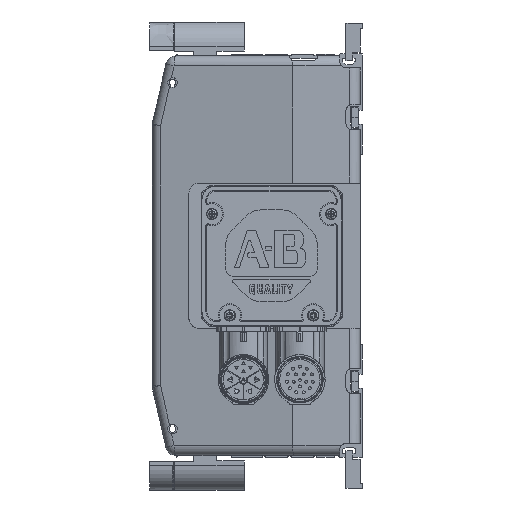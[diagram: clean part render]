
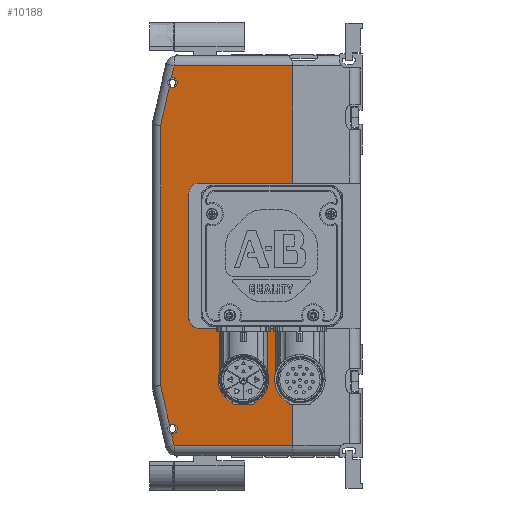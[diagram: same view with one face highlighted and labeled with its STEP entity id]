
A CAD part, left-side view. The second image highlights one B-rep face of the part: STEP entity #10188.
In plain terms, the highlighted planar face has unit normal (-0.985, 0.172, 0).
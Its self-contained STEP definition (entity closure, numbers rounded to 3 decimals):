
#8676=DIRECTION('',(0.,0.,1.));
#8677=VECTOR('',#8676,58.071);
#8678=CARTESIAN_POINT('',(0.,33.317,36.002));
#8679=LINE('',#8678,#8677);
#8754=DIRECTION('',(0.,0.,1.));
#8755=VECTOR('',#8754,58.075);
#8756=CARTESIAN_POINT('',(0.,33.317,-94.073));
#8757=LINE('',#8756,#8755);
#8901=DIRECTION('',(0.172,0.985,0.));
#8902=VECTOR('',#8901,47.214);
#8903=CARTESIAN_POINT('',(0.,33.317,36.002));
#8904=LINE('',#8903,#8902);
#8905=CARTESIAN_POINT('',(8.142,79.823,36.002));
#8906=CARTESIAN_POINT('',(8.287,80.65,36.002));
#8907=CARTESIAN_POINT('',(8.514,81.952,35.644));
#8908=CARTESIAN_POINT('',(8.772,83.424,34.62));
#8909=CARTESIAN_POINT('',(8.953,84.457,33.15));
#8910=CARTESIAN_POINT('',(9.017,84.823,31.842));
#8911=CARTESIAN_POINT('',(9.017,84.823,31.002));
#8913=DIRECTION('',(0.,0.,-1.));
#8914=VECTOR('',#8913,62.);
#8915=CARTESIAN_POINT('',(9.017,84.823,31.002));
#8916=LINE('',#8915,#8914);
#8917=CARTESIAN_POINT('',(9.017,84.823,-30.998));
#8918=CARTESIAN_POINT('',(9.017,84.823,-31.838));
#8919=CARTESIAN_POINT('',(8.953,84.457,-33.146));
#8920=CARTESIAN_POINT('',(8.772,83.424,-34.616));
#8921=CARTESIAN_POINT('',(8.514,81.952,-35.64));
#8922=CARTESIAN_POINT('',(8.287,80.65,-35.998));
#8923=CARTESIAN_POINT('',(8.142,79.823,-35.998));
#8925=DIRECTION('',(0.172,0.985,0.));
#8926=VECTOR('',#8925,47.214);
#8927=CARTESIAN_POINT('',(0.,33.317,-35.998));
#8928=LINE('',#8927,#8926);
#8929=DIRECTION('',(0.172,0.985,0.));
#8930=VECTOR('',#8929,59.786);
#8931=CARTESIAN_POINT('',(0.,33.317,-94.073));
#8932=LINE('',#8931,#8930);
#8933=DIRECTION('',(0.038,0.219,0.975));
#8934=VECTOR('',#8933,6.036);
#8935=CARTESIAN_POINT('',(10.31,92.207,-94.073));
#8936=LINE('',#8935,#8934);
#8937=DIRECTION('',(0.038,0.219,0.975));
#8938=VECTOR('',#8937,20.124);
#8939=CARTESIAN_POINT('',(10.705,94.462,-84.016));
#8940=LINE('',#8939,#8938);
#8941=DIRECTION('',(-0.038,-0.219,0.975));
#8942=VECTOR('',#8941,20.101);
#8943=CARTESIAN_POINT('',(11.475,98.862,64.394));
#8944=LINE('',#8943,#8942);
#8945=DIRECTION('',(-0.038,-0.219,0.975));
#8946=VECTOR('',#8945,6.064);
#8947=CARTESIAN_POINT('',(10.542,93.533,88.16));
#8948=LINE('',#8947,#8946);
#8949=DIRECTION('',(-0.172,-0.985,0.));
#8950=VECTOR('',#8949,59.786);
#8951=CARTESIAN_POINT('',(10.31,92.207,94.073));
#8952=LINE('',#8951,#8950);
#9225=CARTESIAN_POINT('',(10.436,92.93,83.437));
#9226=CARTESIAN_POINT('',(10.387,92.647,83.437));
#9227=CARTESIAN_POINT('',(10.28,92.036,83.54));
#9228=CARTESIAN_POINT('',(10.13,91.182,84.088));
#9229=CARTESIAN_POINT('',(10.034,90.633,84.949));
#9230=CARTESIAN_POINT('',(10.007,90.479,85.837));
#9231=CARTESIAN_POINT('',(10.034,90.633,86.725));
#9232=CARTESIAN_POINT('',(10.13,91.182,87.586));
#9233=CARTESIAN_POINT('',(10.28,92.036,88.134));
#9234=CARTESIAN_POINT('',(10.387,92.647,88.237));
#9235=CARTESIAN_POINT('',(10.436,92.93,88.237));
#9241=CARTESIAN_POINT('',(10.436,92.93,88.237));
#9242=CARTESIAN_POINT('',(10.472,93.134,88.237));
#9243=CARTESIAN_POINT('',(10.507,93.335,88.211));
#9244=CARTESIAN_POINT('',(10.542,93.533,88.16));
#9250=CARTESIAN_POINT('',(10.705,94.467,83.994));
#9251=CARTESIAN_POINT('',(10.627,94.021,83.622));
#9252=CARTESIAN_POINT('',(10.538,93.508,83.437));
#9253=CARTESIAN_POINT('',(10.436,92.93,83.437));
#9293=DIRECTION('',(0.,0.,-1.));
#9294=VECTOR('',#9293,128.789);
#9295=CARTESIAN_POINT('',(11.475,98.862,64.394));
#9296=LINE('',#9295,#9294);
#9327=CARTESIAN_POINT('',(10.436,92.93,-83.463));
#9328=CARTESIAN_POINT('',(10.537,93.506,-83.463));
#9329=CARTESIAN_POINT('',(10.627,94.017,-83.646));
#9330=CARTESIAN_POINT('',(10.705,94.462,-84.016));
#9336=CARTESIAN_POINT('',(10.541,93.527,-88.188));
#9337=CARTESIAN_POINT('',(10.507,93.331,-88.238));
#9338=CARTESIAN_POINT('',(10.472,93.132,-88.263));
#9339=CARTESIAN_POINT('',(10.436,92.93,-88.263));
#9341=CARTESIAN_POINT('',(10.436,92.93,-88.263));
#9342=CARTESIAN_POINT('',(10.387,92.647,-88.263));
#9343=CARTESIAN_POINT('',(10.28,92.036,-88.16));
#9344=CARTESIAN_POINT('',(10.13,91.182,-87.612));
#9345=CARTESIAN_POINT('',(10.034,90.633,-86.751));
#9346=CARTESIAN_POINT('',(10.007,90.479,-85.863));
#9347=CARTESIAN_POINT('',(10.034,90.633,-84.975));
#9348=CARTESIAN_POINT('',(10.13,91.182,-84.114));
#9349=CARTESIAN_POINT('',(10.28,92.036,-83.566));
#9350=CARTESIAN_POINT('',(10.387,92.647,-83.463));
#9351=CARTESIAN_POINT('',(10.436,92.93,-83.463));
#9722=VERTEX_POINT('',#9225);
#9723=VERTEX_POINT('',#9235);
#9724=VERTEX_POINT('',#9341);
#9725=VERTEX_POINT('',#9351);
#9731=CARTESIAN_POINT('',(0.,33.317,94.073));
#9732=VERTEX_POINT('',#9731);
#9739=CARTESIAN_POINT('',(0.,33.317,-94.073));
#9740=VERTEX_POINT('',#9739);
#9767=CARTESIAN_POINT('',(0.,33.317,36.002));
#9769=VERTEX_POINT('',#9767);
#9771=CARTESIAN_POINT('',(0.,33.317,-35.998));
#9773=VERTEX_POINT('',#9771);
#9782=CARTESIAN_POINT('',(8.142,79.823,36.002));
#9783=VERTEX_POINT('',#9782);
#9784=VERTEX_POINT('',#8911);
#9785=CARTESIAN_POINT('',(9.017,84.823,-30.998));
#9786=VERTEX_POINT('',#9785);
#9787=VERTEX_POINT('',#8923);
#9832=CARTESIAN_POINT('',(11.475,98.862,64.394));
#9833=VERTEX_POINT('',#9832);
#9834=CARTESIAN_POINT('',(10.705,94.467,83.994));
#9835=VERTEX_POINT('',#9834);
#9836=CARTESIAN_POINT('',(10.542,93.533,88.16));
#9837=CARTESIAN_POINT('',(10.31,92.207,94.073));
#9838=VERTEX_POINT('',#9836);
#9839=VERTEX_POINT('',#9837);
#9844=CARTESIAN_POINT('',(11.475,98.862,-64.394));
#9846=VERTEX_POINT('',#9844);
#9850=CARTESIAN_POINT('',(10.705,94.462,-84.016));
#9851=VERTEX_POINT('',#9850);
#9852=CARTESIAN_POINT('',(10.31,92.207,-94.073));
#9853=CARTESIAN_POINT('',(10.541,93.527,-88.188));
#9854=VERTEX_POINT('',#9852);
#9855=VERTEX_POINT('',#9853);
#10145=CARTESIAN_POINT('',(0.,33.317,100.));
#10146=DIRECTION('',(0.985,-0.172,0.));
#10147=DIRECTION('',(0.172,0.985,0.));
#10148=AXIS2_PLACEMENT_3D('',#10145,#10146,#10147);
#10149=PLANE('',#10148);
#10150=ORIENTED_EDGE('',*,*,#9930,.T.);
#10152=ORIENTED_EDGE('',*,*,#10151,.T.);
#10154=ORIENTED_EDGE('',*,*,#10153,.T.);
#10156=ORIENTED_EDGE('',*,*,#10155,.T.);
#10157=ORIENTED_EDGE('',*,*,#10135,.F.);
#10158=ORIENTED_EDGE('',*,*,#9911,.F.);
#10160=ORIENTED_EDGE('',*,*,#10159,.T.);
#10162=ORIENTED_EDGE('',*,*,#10161,.T.);
#10164=ORIENTED_EDGE('',*,*,#10163,.T.);
#10166=ORIENTED_EDGE('',*,*,#10165,.T.);
#10168=ORIENTED_EDGE('',*,*,#10167,.T.);
#10170=ORIENTED_EDGE('',*,*,#10169,.T.);
#10172=ORIENTED_EDGE('',*,*,#10171,.F.);
#10174=ORIENTED_EDGE('',*,*,#10173,.T.);
#10176=ORIENTED_EDGE('',*,*,#10175,.T.);
#10178=ORIENTED_EDGE('',*,*,#10177,.T.);
#10180=ORIENTED_EDGE('',*,*,#10179,.T.);
#10182=ORIENTED_EDGE('',*,*,#10181,.T.);
#10184=ORIENTED_EDGE('',*,*,#10183,.T.);
#10185=ORIENTED_EDGE('',*,*,#9867,.F.);
#10186=EDGE_LOOP('',(#10150,#10152,#10154,#10156,#10157,#10158,#10160,#10162,
#10164,#10166,#10168,#10170,#10172,#10174,#10176,#10178,#10180,#10182,#10184,
#10185));
#10187=FACE_OUTER_BOUND('',#10186,.F.);
#10188=ADVANCED_FACE('',(#10187),#10149,.F.);
#8912=B_SPLINE_CURVE_WITH_KNOTS('',3,(#8905,#8906,#8907,#8908,#8909,#8910,
#8911),.UNSPECIFIED.,.F.,.F.,(4,1,1,1,4),(0.,0.25,0.5,0.75,1.),
.UNSPECIFIED.);
#8924=B_SPLINE_CURVE_WITH_KNOTS('',3,(#8917,#8918,#8919,#8920,#8921,#8922,
#8923),.UNSPECIFIED.,.F.,.F.,(4,1,1,1,4),(0.,0.25,0.5,0.75,1.),
.UNSPECIFIED.);
#9236=B_SPLINE_CURVE_WITH_KNOTS('',3,(#9225,#9226,#9227,#9228,#9229,#9230,#9231,
#9232,#9233,#9234,#9235),.UNSPECIFIED.,.F.,.F.,(4,1,1,1,1,1,1,1,4),(0.,
0.125,0.25,0.375,0.5,0.625,0.75,0.875,1.),.UNSPECIFIED.);
#9245=B_SPLINE_CURVE_WITH_KNOTS('',3,(#9241,#9242,#9243,#9244),.UNSPECIFIED.,
.F.,.F.,(4,4),(0.,1.),.UNSPECIFIED.);
#9254=B_SPLINE_CURVE_WITH_KNOTS('',3,(#9250,#9251,#9252,#9253),.UNSPECIFIED.,
.F.,.F.,(4,4),(0.,1.),.UNSPECIFIED.);
#9331=B_SPLINE_CURVE_WITH_KNOTS('',3,(#9327,#9328,#9329,#9330),.UNSPECIFIED.,
.F.,.F.,(4,4),(0.,1.),.UNSPECIFIED.);
#9340=B_SPLINE_CURVE_WITH_KNOTS('',3,(#9336,#9337,#9338,#9339),.UNSPECIFIED.,
.F.,.F.,(4,4),(0.,1.),.UNSPECIFIED.);
#9352=B_SPLINE_CURVE_WITH_KNOTS('',3,(#9341,#9342,#9343,#9344,#9345,#9346,#9347,
#9348,#9349,#9350,#9351),.UNSPECIFIED.,.F.,.F.,(4,1,1,1,1,1,1,1,4),(0.,
0.125,0.25,0.375,0.5,0.625,0.75,0.875,1.),.UNSPECIFIED.);
#9867=EDGE_CURVE('',#9769,#9732,#8679,.T.);
#9911=EDGE_CURVE('',#9740,#9773,#8757,.T.);
#9930=EDGE_CURVE('',#9769,#9783,#8904,.T.);
#10135=EDGE_CURVE('',#9773,#9787,#8928,.T.);
#10151=EDGE_CURVE('',#9783,#9784,#8912,.T.);
#10153=EDGE_CURVE('',#9784,#9786,#8916,.T.);
#10155=EDGE_CURVE('',#9786,#9787,#8924,.T.);
#10159=EDGE_CURVE('',#9740,#9854,#8932,.T.);
#10161=EDGE_CURVE('',#9854,#9855,#8936,.T.);
#10163=EDGE_CURVE('',#9855,#9724,#9340,.T.);
#10165=EDGE_CURVE('',#9724,#9725,#9352,.T.);
#10167=EDGE_CURVE('',#9725,#9851,#9331,.T.);
#10169=EDGE_CURVE('',#9851,#9846,#8940,.T.);
#10171=EDGE_CURVE('',#9833,#9846,#9296,.T.);
#10173=EDGE_CURVE('',#9833,#9835,#8944,.T.);
#10175=EDGE_CURVE('',#9835,#9722,#9254,.T.);
#10177=EDGE_CURVE('',#9722,#9723,#9236,.T.);
#10179=EDGE_CURVE('',#9723,#9838,#9245,.T.);
#10181=EDGE_CURVE('',#9838,#9839,#8948,.T.);
#10183=EDGE_CURVE('',#9839,#9732,#8952,.T.);
